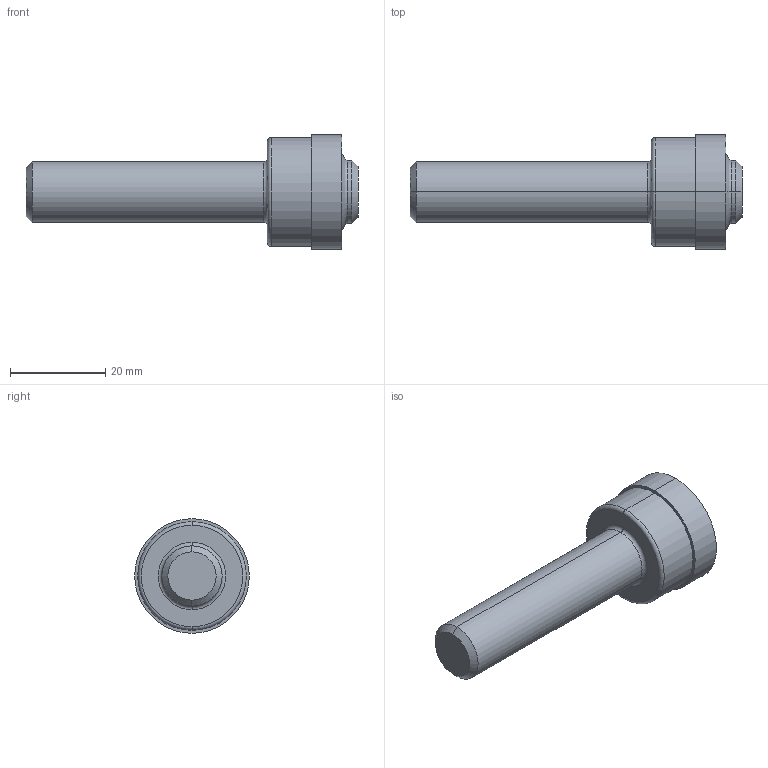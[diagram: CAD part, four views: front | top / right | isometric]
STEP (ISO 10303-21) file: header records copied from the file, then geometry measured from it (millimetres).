
FILE_DESCRIPTION (( 'STEP AP214' ), '1' );
FILE_NAME ('AS5202-05X.STEP', '2023-11-10T18:02:49', ( '' ), ( '' ), 'SwSTEP 2.0', 'SolidWorks 2022', '' );
FILE_SCHEMA (( 'AUTOMOTIVE_DESIGN' ));
Length unit declared in the file: inch
Products named in the file (1): AS5202-05X
Bounding box: 69.85 x 24.13 x 24.13 mm (x, y, z)
Volume: 13584.4 mm3; surface area: 4102.8 mm2
Topology: 1 solids, 1 shells, 25 faces, 48 edges, 28 vertices
Faces by surface type: cylinder 8, cone 6, torus 6, plane 5
Entity records: 680 total; most frequent: DIRECTION 134, CARTESIAN_POINT 102, ORIENTED_EDGE 96, AXIS2_PLACEMENT_3D 60, EDGE_CURVE 48, CIRCLE 34, VERTEX_POINT 28, EDGE_LOOP 28
